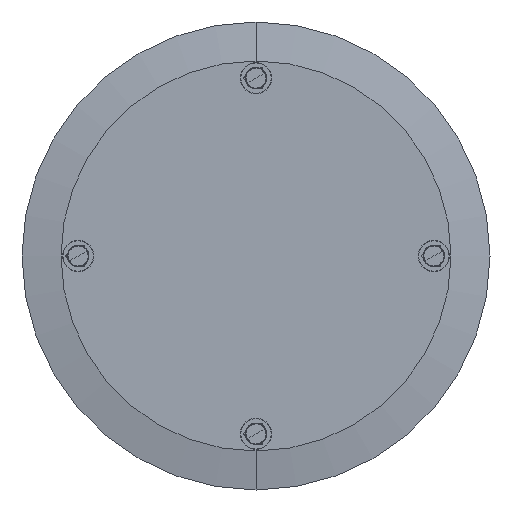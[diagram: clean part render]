
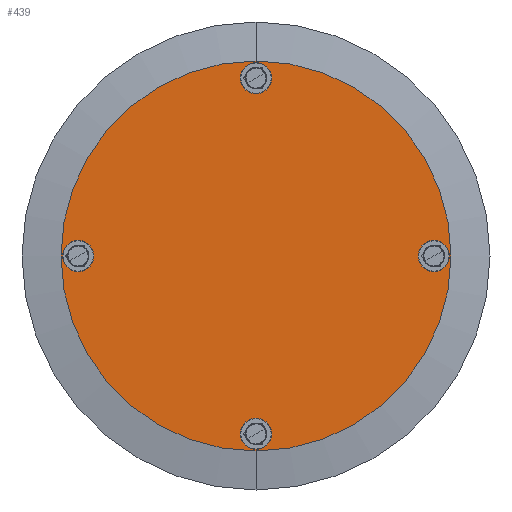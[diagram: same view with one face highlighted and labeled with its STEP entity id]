
A CAD part, front view. The second image highlights one B-rep face of the part: STEP entity #439.
In plain terms, the highlighted planar face has unit normal (0, -1, 0).
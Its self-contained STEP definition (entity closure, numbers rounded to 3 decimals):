
#14 = DIRECTION ( 'NONE',  ( 0., -1., 0. ) ) ;
#54 = AXIS2_PLACEMENT_3D ( 'NONE', #203, #989, #1198 ) ;
#103 = DIRECTION ( 'NONE',  ( 0., 0., 1. ) ) ;
#118 = ORIENTED_EDGE ( 'NONE', *, *, #384, .F. ) ;
#137 = CIRCLE ( 'NONE', #478, 40. ) ;
#146 = ORIENTED_EDGE ( 'NONE', *, *, #2026, .F. ) ;
#159 = DIRECTION ( 'NONE',  ( 0., 0., -1. ) ) ;
#203 = CARTESIAN_POINT ( 'NONE',  ( 0., 0., 0. ) ) ;
#220 = CARTESIAN_POINT ( 'NONE',  ( -456., 0., 40. ) ) ;
#222 = VERTEX_POINT ( 'NONE', #2377 ) ;
#259 = CIRCLE ( 'NONE', #2004, 40. ) ;
#266 = DIRECTION ( 'NONE',  ( 0., 0., -1. ) ) ;
#286 = AXIS2_PLACEMENT_3D ( 'NONE', #1404, #14, #786 ) ;
#300 = DIRECTION ( 'NONE',  ( 0., 1., 0. ) ) ;
#301 = VERTEX_POINT ( 'NONE', #666 ) ;
#329 = ORIENTED_EDGE ( 'NONE', *, *, #668, .F. ) ;
#353 = AXIS2_PLACEMENT_3D ( 'NONE', #2151, #1385, #1563 ) ;
#384 = EDGE_CURVE ( 'NONE', #1911, #1199, #137, .T. ) ;
#411 = CARTESIAN_POINT ( 'NONE',  ( 0., 0., -456. ) ) ;
#413 = CARTESIAN_POINT ( 'NONE',  ( 0., 0., -500. ) ) ;
#439 = ADVANCED_FACE ( 'NONE', ( #1513, #479, #808, #1969, #962 ), #1648, .F. ) ;
#478 = AXIS2_PLACEMENT_3D ( 'NONE', #1254, #1034, #2030 ) ;
#479 = FACE_BOUND ( 'NONE', #2358, .T. ) ;
#509 = VERTEX_POINT ( 'NONE', #1272 ) ;
#531 = VERTEX_POINT ( 'NONE', #1679 ) ;
#596 = EDGE_CURVE ( 'NONE', #531, #604, #957, .T. ) ;
#604 = VERTEX_POINT ( 'NONE', #413 ) ;
#631 = CIRCLE ( 'NONE', #353, 40. ) ;
#663 = CARTESIAN_POINT ( 'NONE',  ( 456., 0., 40. ) ) ;
#666 = CARTESIAN_POINT ( 'NONE',  ( 456., 0., -40. ) ) ;
#668 = EDGE_CURVE ( 'NONE', #301, #2288, #1153, .T. ) ;
#676 = EDGE_CURVE ( 'NONE', #2288, #301, #631, .T. ) ;
#694 = EDGE_CURVE ( 'NONE', #604, #531, #2106, .T. ) ;
#786 = DIRECTION ( 'NONE',  ( 0., 0., 1. ) ) ;
#795 = DIRECTION ( 'NONE',  ( 0., 0., -1. ) ) ;
#808 = FACE_BOUND ( 'NONE', #2179, .T. ) ;
#837 = CARTESIAN_POINT ( 'NONE',  ( 0., 0., 456. ) ) ;
#864 = AXIS2_PLACEMENT_3D ( 'NONE', #2422, #866, #2220 ) ;
#866 = DIRECTION ( 'NONE',  ( 0., -1., 0. ) ) ;
#896 = ORIENTED_EDGE ( 'NONE', *, *, #926, .F. ) ;
#926 = EDGE_CURVE ( 'NONE', #1061, #509, #259, .T. ) ;
#957 = CIRCLE ( 'NONE', #286, 500. ) ;
#962 = FACE_OUTER_BOUND ( 'NONE', #1849, .T. ) ;
#989 = DIRECTION ( 'NONE',  ( 0., -1., 0. ) ) ;
#1034 = DIRECTION ( 'NONE',  ( 0., -1., 0. ) ) ;
#1061 = VERTEX_POINT ( 'NONE', #1106 ) ;
#1066 = CIRCLE ( 'NONE', #2279, 40. ) ;
#1077 = EDGE_CURVE ( 'NONE', #1157, #222, #1266, .T. ) ;
#1106 = CARTESIAN_POINT ( 'NONE',  ( 0., 0., -496. ) ) ;
#1108 = AXIS2_PLACEMENT_3D ( 'NONE', #1278, #300, #103 ) ;
#1153 = CIRCLE ( 'NONE', #1593, 40. ) ;
#1157 = VERTEX_POINT ( 'NONE', #2471 ) ;
#1187 = CARTESIAN_POINT ( 'NONE',  ( 456., 0., 0. ) ) ;
#1198 = DIRECTION ( 'NONE',  ( 0., 0., 1. ) ) ;
#1199 = VERTEX_POINT ( 'NONE', #1920 ) ;
#1252 = DIRECTION ( 'NONE',  ( 0., -1., 0. ) ) ;
#1254 = CARTESIAN_POINT ( 'NONE',  ( -456., 0., 0. ) ) ;
#1266 = CIRCLE ( 'NONE', #2143, 40. ) ;
#1271 = AXIS2_PLACEMENT_3D ( 'NONE', #837, #1252, #266 ) ;
#1272 = CARTESIAN_POINT ( 'NONE',  ( 0., 0., -416. ) ) ;
#1278 = CARTESIAN_POINT ( 'NONE',  ( 0., 0., 0. ) ) ;
#1374 = DIRECTION ( 'NONE',  ( 0., -1., 0. ) ) ;
#1385 = DIRECTION ( 'NONE',  ( 0., -1., 0. ) ) ;
#1404 = CARTESIAN_POINT ( 'NONE',  ( 0., 0., 0. ) ) ;
#1411 = ORIENTED_EDGE ( 'NONE', *, *, #1077, .F. ) ;
#1429 = DIRECTION ( 'NONE',  ( 0., 0., -1. ) ) ;
#1442 = EDGE_CURVE ( 'NONE', #1199, #1911, #1915, .T. ) ;
#1513 = FACE_BOUND ( 'NONE', #2112, .T. ) ;
#1546 = DIRECTION ( 'NONE',  ( 0., 0., -1. ) ) ;
#1563 = DIRECTION ( 'NONE',  ( 0., 0., -1. ) ) ;
#1593 = AXIS2_PLACEMENT_3D ( 'NONE', #1187, #1374, #795 ) ;
#1648 = PLANE ( 'NONE',  #1108 ) ;
#1665 = ORIENTED_EDGE ( 'NONE', *, *, #596, .T. ) ;
#1679 = CARTESIAN_POINT ( 'NONE',  ( 0., 0., 500. ) ) ;
#1717 = EDGE_CURVE ( 'NONE', #509, #1061, #1066, .T. ) ;
#1734 = ORIENTED_EDGE ( 'NONE', *, *, #676, .F. ) ;
#1829 = ORIENTED_EDGE ( 'NONE', *, *, #1717, .F. ) ;
#1849 = EDGE_LOOP ( 'NONE', ( #1665, #1852 ) ) ;
#1852 = ORIENTED_EDGE ( 'NONE', *, *, #694, .T. ) ;
#1911 = VERTEX_POINT ( 'NONE', #220 ) ;
#1915 = CIRCLE ( 'NONE', #864, 40. ) ;
#1920 = CARTESIAN_POINT ( 'NONE',  ( -456., 0., -40. ) ) ;
#1969 = FACE_BOUND ( 'NONE', #2395, .T. ) ;
#1973 = DIRECTION ( 'NONE',  ( 0., -1., 0. ) ) ;
#2004 = AXIS2_PLACEMENT_3D ( 'NONE', #2349, #1973, #1429 ) ;
#2026 = EDGE_CURVE ( 'NONE', #222, #1157, #2451, .T. ) ;
#2030 = DIRECTION ( 'NONE',  ( 0., 0., -1. ) ) ;
#2077 = CARTESIAN_POINT ( 'NONE',  ( 0., 0., 456. ) ) ;
#2106 = CIRCLE ( 'NONE', #54, 500. ) ;
#2112 = EDGE_LOOP ( 'NONE', ( #329, #1734 ) ) ;
#2143 = AXIS2_PLACEMENT_3D ( 'NONE', #2077, #2462, #159 ) ;
#2151 = CARTESIAN_POINT ( 'NONE',  ( 456., 0., 0. ) ) ;
#2179 = EDGE_LOOP ( 'NONE', ( #2334, #118 ) ) ;
#2220 = DIRECTION ( 'NONE',  ( 0., 0., -1. ) ) ;
#2279 = AXIS2_PLACEMENT_3D ( 'NONE', #411, #2333, #1546 ) ;
#2288 = VERTEX_POINT ( 'NONE', #663 ) ;
#2333 = DIRECTION ( 'NONE',  ( 0., -1., 0. ) ) ;
#2334 = ORIENTED_EDGE ( 'NONE', *, *, #1442, .F. ) ;
#2349 = CARTESIAN_POINT ( 'NONE',  ( 0., 0., -456. ) ) ;
#2358 = EDGE_LOOP ( 'NONE', ( #896, #1829 ) ) ;
#2377 = CARTESIAN_POINT ( 'NONE',  ( 0., 0., 496. ) ) ;
#2395 = EDGE_LOOP ( 'NONE', ( #1411, #146 ) ) ;
#2422 = CARTESIAN_POINT ( 'NONE',  ( -456., 0., 0. ) ) ;
#2451 = CIRCLE ( 'NONE', #1271, 40. ) ;
#2462 = DIRECTION ( 'NONE',  ( 0., -1., 0. ) ) ;
#2471 = CARTESIAN_POINT ( 'NONE',  ( 0., 0., 416. ) ) ;
